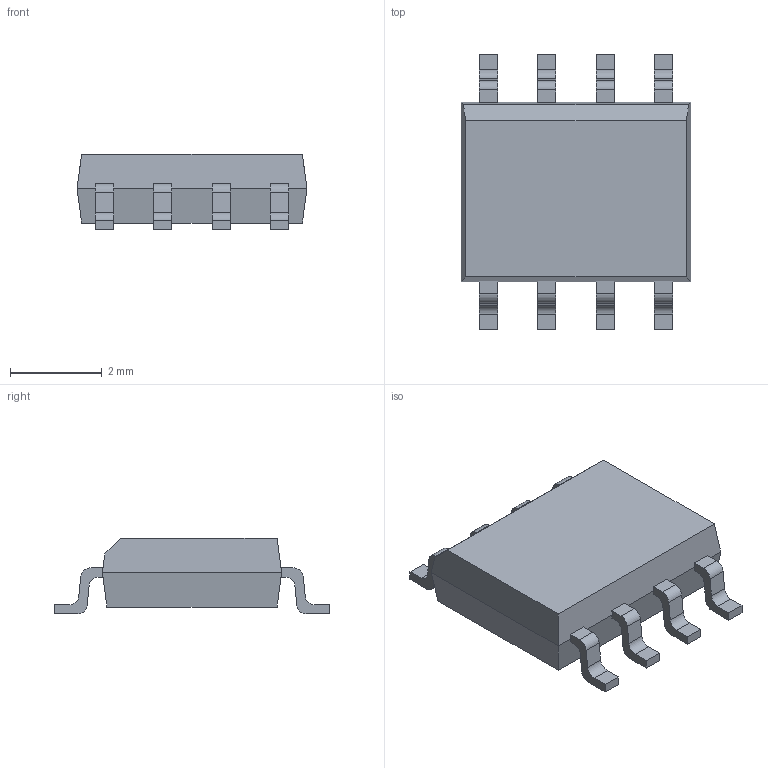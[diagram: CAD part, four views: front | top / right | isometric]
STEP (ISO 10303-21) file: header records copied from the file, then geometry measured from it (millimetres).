
FILE_DESCRIPTION( (''), '2;1');
FILE_NAME ('SOP8_外形_顧客提出用.stp','2025-03-18T09:52:33',(''),(''),'spGate 19.8.4 (****-****-****-****)','','');
FILE_SCHEMA (('AUTOMOTIVE_DESIGN'));
Length unit declared in the file: millimetre
Products named in the file (10): Assembly; SOP8_外形_顧客提出用-prt0; SOP8_外形_顧客提出用-prt1; SOP8_外形_顧客提出用-prt2; SOP8_外形_顧客提出用-prt3; SOP8_外形_顧客提出用-prt4; SOP8_外形_顧客提出用-prt5; SOP8_外形_顧客提出用-prt6; SOP8_外形_顧客提出用-prt7; SOP8_外形_顧客提出用-prt8
Assembly tree (9 placements, depth 2):
  Assembly
    SOP8_外形_顧客提出用-prt0
    SOP8_外形_顧客提出用-prt1
    SOP8_外形_顧客提出用-prt2
    SOP8_外形_顧客提出用-prt3
    SOP8_外形_顧客提出用-prt4
    SOP8_外形_顧客提出用-prt5
    SOP8_外形_顧客提出用-prt6
    SOP8_外形_顧客提出用-prt7
    SOP8_外形_顧客提出用-prt8
Bounding box: 5 x 6 x 1.65 mm (x, y, z)
Volume: 28.8 mm3; surface area: 78.5 mm2
Topology: 9 solids, 9 shells, 131 faces, 335 edges, 222 vertices
Faces by surface type: plane 99, cylinder 32
Entity records: 6952 total; most frequent: CARTESIAN_POINT 708, DIRECTION 701, ORIENTED_EDGE 670, COLOUR_RGB 475, PRESENTATION_STYLE_ASSIGNMENT 475, STYLED_ITEM 475, EDGE_CURVE 335, DRAUGHTING_PRE_DEFINED_CURVE_FONT 335
